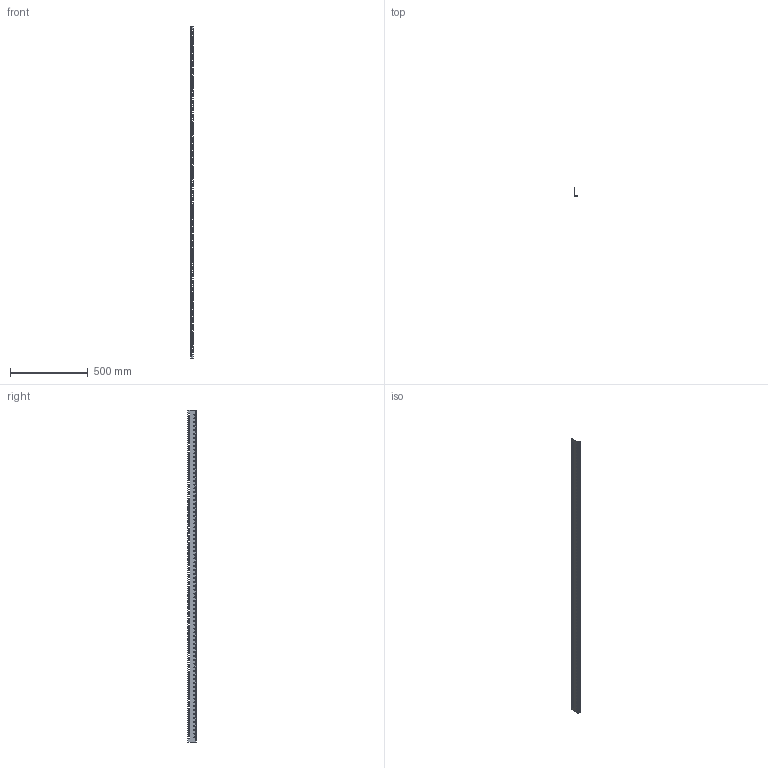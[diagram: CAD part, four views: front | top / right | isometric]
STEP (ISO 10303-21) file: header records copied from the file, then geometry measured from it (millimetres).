
FILE_DESCRIPTION (( 'STEP AP203' ), '1' );
FILE_NAME ('MG 220 IT Ðåéêà âåðòèêàëüíàÿ 19''''.STEP', '2017-11-19T08:05:17', ( 'user' ), ( '' ), 'SwSTEP 2.0', 'SolidWorks 2012', '' );
FILE_SCHEMA (( 'CONFIG_CONTROL_DESIGN' ));
Products named in the file (1): MG 220 IT Ðåéêà âåðòèêàëüíàÿ 19''''
Bounding box: 18.5 x 54.5 x 2133 mm (x, y, z)
Volume: 240774.9 mm3; surface area: 274938.2 mm2
Topology: 1 solids, 1 shells, 2630 faces, 7784 edges, 5064 vertices
Faces by surface type: cylinder 1398, plane 1140, bspline 92
Full cylindrical faces by diameter (mm): 6.5 x84
Entity records: 94733 total; most frequent: CARTESIAN_POINT 21743, ORIENTED_EDGE 15400, DIRECTION 15022, EDGE_CURVE 7700, AXIS2_PLACEMENT_3D 5151, VERTEX_POINT 5064, VECTOR 4720, LINE 4720
